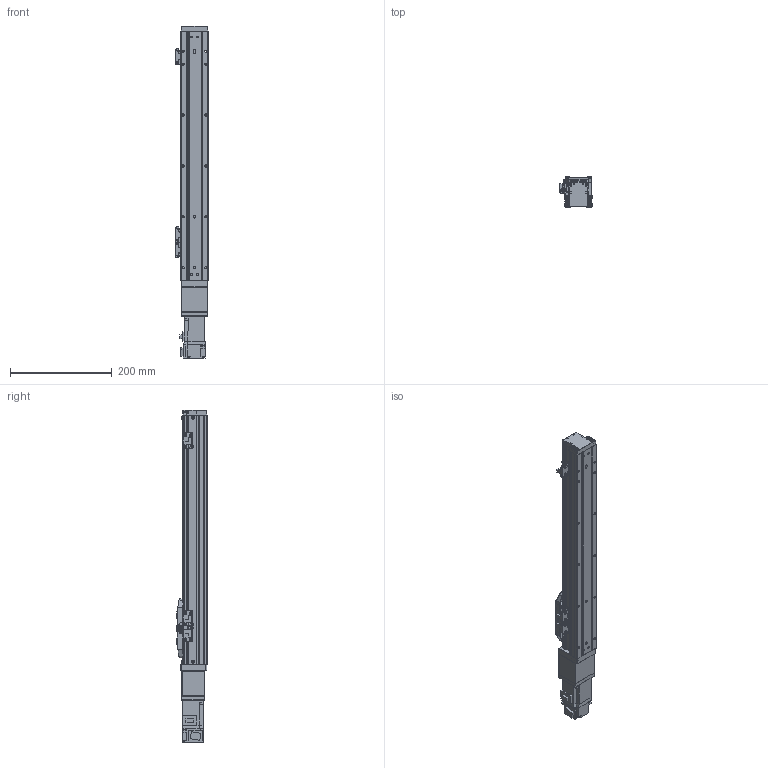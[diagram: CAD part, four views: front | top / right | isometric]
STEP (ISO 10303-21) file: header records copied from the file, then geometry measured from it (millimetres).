
FILE_DESCRIPTION (( 'STEP AP203' ), '1' );
FILE_NAME ('GTH5-350-BC-M10-C4.step', '2022-09-23T00:39:48', ( '微软用户' ), ( '微软中国' ), 'SwSTEP 2.0', 'SolidWorks 2020', '' );
FILE_SCHEMA (( 'CONFIG_CONTROL_DESIGN' ));
Length unit declared in the file: millimetre
Products named in the file (20): HG-KR13; GBT 70.1-M4×16; GBT 70.1-M2.5×6; GTH5-350-BC-M10-C4; GTH50-003; GTH50-028; GTH50-006; GTH50-013; GTH50-022-1; GTH50-004; GTH50-023; CTHA60-027; GBT 70.3-M3℅6; GBT 70.1-M3℅6; CTHA60-013; BTH-M3X5X6; GBT96.1-2002 3×0.8; CTHA60-006-2_CTHA60-006-1; GTH50-001_350; GTH50-024
Assembly tree (60 placements, depth 2):
  GTH5-350-BC-M10-C4
    GTH50-006
    GTH50-004
    GBT 70.3-M3℅6  x6
    BTH-M3X5X6  x8
    GTH50-001_350
    GBT 70.1-M4×16  x8
    GTH50-003
    GTH50-013
    GTH50-023  x3
    GBT 70.1-M3℅6  x12
    GBT96.1-2002 3×0.8  x6
    GTH50-024  x3
    GBT 70.1-M2.5×6  x2
    GTH50-028  x2
    GTH50-022-1
    CTHA60-027
    CTHA60-013
    CTHA60-006-2_CTHA60-006-1
    HG-KR13
Bounding box: 63.8 x 60 x 652.6 mm (x, y, z)
Volume: 1362213.1 mm3; surface area: 236361.3 mm2
Topology: 62 solids, 62 shells, 2045 faces, 4692 edges, 2862 vertices
Faces by surface type: plane 1105, cylinder 539, cone 235, torus 158, sphere 8
Entity records: 33959 total; most frequent: DIRECTION 5479, CARTESIAN_POINT 5367, ORIENTED_EDGE 5070, EDGE_CURVE 2535, AXIS2_PLACEMENT_3D 1880, LINE 1719, VECTOR 1719, VERTEX_POINT 1602
